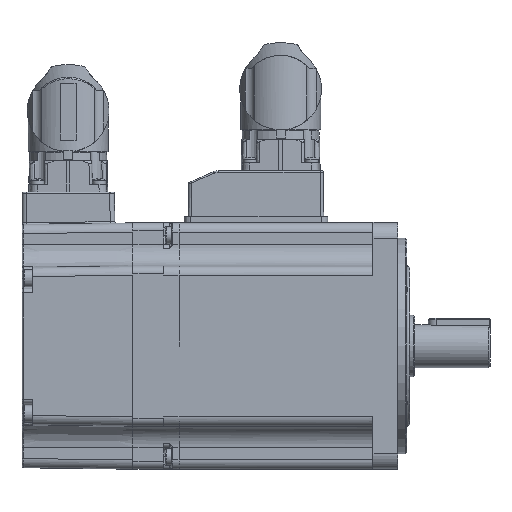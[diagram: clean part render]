
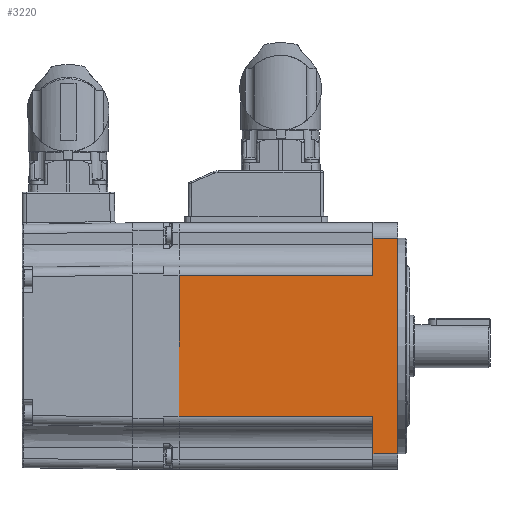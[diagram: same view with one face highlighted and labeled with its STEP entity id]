
A CAD part, left-side view. The second image highlights one B-rep face of the part: STEP entity #3220.
In plain terms, the highlighted planar face has unit normal (-1, 0, 0).
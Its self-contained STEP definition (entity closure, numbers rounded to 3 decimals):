
#3220 = ADVANCED_FACE( '', ( #8595 ), #8596, .T. );
#8595 = FACE_OUTER_BOUND( '', #17544, .T. );
#8596 = PLANE( '', #17545 );
#17544 = EDGE_LOOP( '', ( #36346, #36347, #36348, #36349, #36350, #36351, #36352, #36353, #36354, #36355 ) );
#17545 = AXIS2_PLACEMENT_3D( '', #36356, #36357, #36358 );
#36346 = ORIENTED_EDGE( '', *, *, #56374, .F. );
#36347 = ORIENTED_EDGE( '', *, *, #56375, .T. );
#36348 = ORIENTED_EDGE( '', *, *, #56376, .F. );
#36349 = ORIENTED_EDGE( '', *, *, #56377, .T. );
#36350 = ORIENTED_EDGE( '', *, *, #56378, .F. );
#36351 = ORIENTED_EDGE( '', *, *, #56379, .T. );
#36352 = ORIENTED_EDGE( '', *, *, #56380, .F. );
#36353 = ORIENTED_EDGE( '', *, *, #56381, .T. );
#36354 = ORIENTED_EDGE( '', *, *, #56382, .T. );
#36355 = ORIENTED_EDGE( '', *, *, #56383, .T. );
#36356 = CARTESIAN_POINT( '', ( -40., 214.347, 40. ) );
#36357 = DIRECTION( '', ( -1., 0., 0. ) );
#36358 = DIRECTION( '', ( 0., 0., 1. ) );
#56374 = EDGE_CURVE( '', #67000, #67001, #67002, .T. );
#56375 = EDGE_CURVE( '', #67000, #67003, #67004, .F. );
#56376 = EDGE_CURVE( '', #67005, #67003, #67006, .T. );
#56377 = EDGE_CURVE( '', #67005, #67007, #67008, .T. );
#56378 = EDGE_CURVE( '', #67009, #67007, #67010, .T. );
#56379 = EDGE_CURVE( '', #67009, #67011, #67012, .F. );
#56380 = EDGE_CURVE( '', #67013, #67011, #67014, .T. );
#56381 = EDGE_CURVE( '', #67013, #67015, #67016, .T. );
#56382 = EDGE_CURVE( '', #67015, #67017, #67018, .T. );
#56383 = EDGE_CURVE( '', #67017, #67001, #67019, .T. );
#67000 = VERTEX_POINT( '', #85409 );
#67001 = VERTEX_POINT( '', #85410 );
#67002 = LINE( '', #85411, #85412 );
#67003 = VERTEX_POINT( '', #85413 );
#67004 = LINE( '', #85414, #85415 );
#67005 = VERTEX_POINT( '', #85416 );
#67006 = LINE( '', #85417, #85418 );
#67007 = VERTEX_POINT( '', #85419 );
#67008 = LINE( '', #85420, #85421 );
#67009 = VERTEX_POINT( '', #85422 );
#67010 = LINE( '', #85423, #85424 );
#67011 = VERTEX_POINT( '', #85425 );
#67012 = LINE( '', #85426, #85427 );
#67013 = VERTEX_POINT( '', #85428 );
#67014 = LINE( '', #85429, #85430 );
#67015 = VERTEX_POINT( '', #85431 );
#67016 = LINE( '', #85432, #85433 );
#67017 = VERTEX_POINT( '', #85434 );
#67018 = LINE( '', #85435, #85436 );
#67019 = LINE( '', #85437, #85438 );
#85409 = CARTESIAN_POINT( '', ( -40., 88.311, -23. ) );
#85410 = CARTESIAN_POINT( '', ( -40., 88.311, 0. ) );
#85411 = CARTESIAN_POINT( '', ( -40., 88.311, 40. ) );
#85412 = VECTOR( '', #106661, 1000. );
#85413 = CARTESIAN_POINT( '', ( -40., 25.311, -23. ) );
#85414 = CARTESIAN_POINT( '', ( -40., 214.347, -23. ) );
#85415 = VECTOR( '', #106662, 1000. );
#85416 = CARTESIAN_POINT( '', ( -40., 25.311, -35. ) );
#85417 = CARTESIAN_POINT( '', ( -40., 25.311, 40. ) );
#85418 = VECTOR( '', #106663, 1000. );
#85419 = CARTESIAN_POINT( '', ( -40., 17.311, -35. ) );
#85420 = CARTESIAN_POINT( '', ( -40., 214.347, -35. ) );
#85421 = VECTOR( '', #106664, 1000. );
#85422 = CARTESIAN_POINT( '', ( -40., 17.311, 35. ) );
#85423 = CARTESIAN_POINT( '', ( -40., 17.311, 40. ) );
#85424 = VECTOR( '', #106665, 1000. );
#85425 = CARTESIAN_POINT( '', ( -40., 25.311, 35. ) );
#85426 = CARTESIAN_POINT( '', ( -40., 214.347, 35. ) );
#85427 = VECTOR( '', #106666, 1000. );
#85428 = CARTESIAN_POINT( '', ( -40., 25.311, 23. ) );
#85429 = CARTESIAN_POINT( '', ( -40., 25.311, 40. ) );
#85430 = VECTOR( '', #106667, 1000. );
#85431 = CARTESIAN_POINT( '', ( -40., 88.311, 23. ) );
#85432 = CARTESIAN_POINT( '', ( -40., 214.347, 23. ) );
#85433 = VECTOR( '', #106668, 1000. );
#85434 = CARTESIAN_POINT( '', ( -40., 88.311, 0.001 ) );
#85435 = CARTESIAN_POINT( '', ( -40., 88.311, 40. ) );
#85436 = VECTOR( '', #106669, 1000. );
#85437 = CARTESIAN_POINT( '', ( -40., 88.311, -40. ) );
#85438 = VECTOR( '', #106670, 1000. );
#106661 = DIRECTION( '', ( 0., 0., 1. ) );
#106662 = DIRECTION( '', ( 0., 1., 0. ) );
#106663 = DIRECTION( '', ( 0., 0., 1. ) );
#106664 = DIRECTION( '', ( 0., -1., 0. ) );
#106665 = DIRECTION( '', ( 0., 0., -1. ) );
#106666 = DIRECTION( '', ( 0., -1., 0. ) );
#106667 = DIRECTION( '', ( 0., 0., 1. ) );
#106668 = DIRECTION( '', ( 0., 1., 0. ) );
#106669 = DIRECTION( '', ( 0., 0., -1. ) );
#106670 = DIRECTION( '', ( 0., 0., -1. ) );
